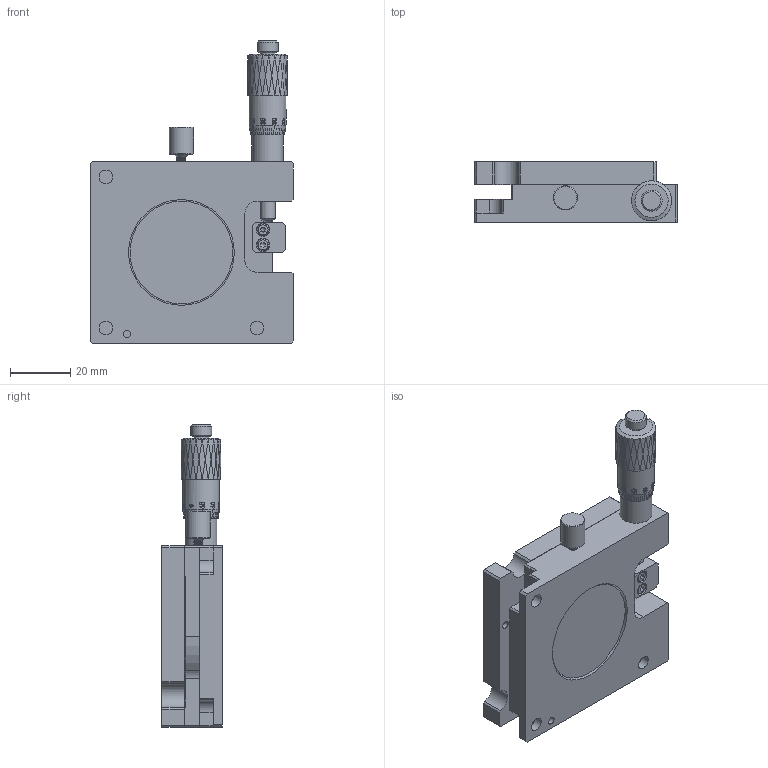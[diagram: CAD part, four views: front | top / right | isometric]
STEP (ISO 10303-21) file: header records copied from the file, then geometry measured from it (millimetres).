
FILE_DESCRIPTION (( 'STEP AP203' ), '1' );
FILE_NAME ('BFR-60.STEP', '2024-07-09T05:36:37', ( 'Windows User' ), ( 'P R C' ), 'SwSTEP 2.0', 'SolidWorks 2024', '' );
FILE_SCHEMA (( 'CONFIG_CONTROL_DESIGN' ));
Products named in the file (1): BFR-60
Bounding box: 67 x 20 x 100 mm (x, y, z)
Volume: 69796.2 mm3; surface area: 31038.6 mm2
Topology: 14 solids, 14 shells, 1003 faces, 2450 edges, 1595 vertices
Faces by surface type: bspline 396, plane 285, cylinder 191, cone 124, torus 6, sphere 1
Full cylindrical faces by diameter (mm): 1.6 x2, 2 x2, 2.4 x2, 2.459 x1, 2.5 x8, 3 x5, 3.3 x4, 3.4 x4, 3.8 x2, 4.3 x2, 4.5 x3, 5 x3, 5.5 x4, 6 x4, 7 x1, 8 x1, 8.5 x1, 9.5 x2, 10.5 x1, 10.6 x1, 12.2 x1, 29 x1, 30 x3, 34 x1, 35 x1
Entity records: 64759 total; most frequent: CARTESIAN_POINT 45443, ORIENTED_EDGE 4638, DIRECTION 2457, EDGE_CURVE 2319, VERTEX_POINT 1564, B_SPLINE_CURVE_WITH_KNOTS 1354, EDGE_LOOP 1253, FACE_OUTER_BOUND 1069
